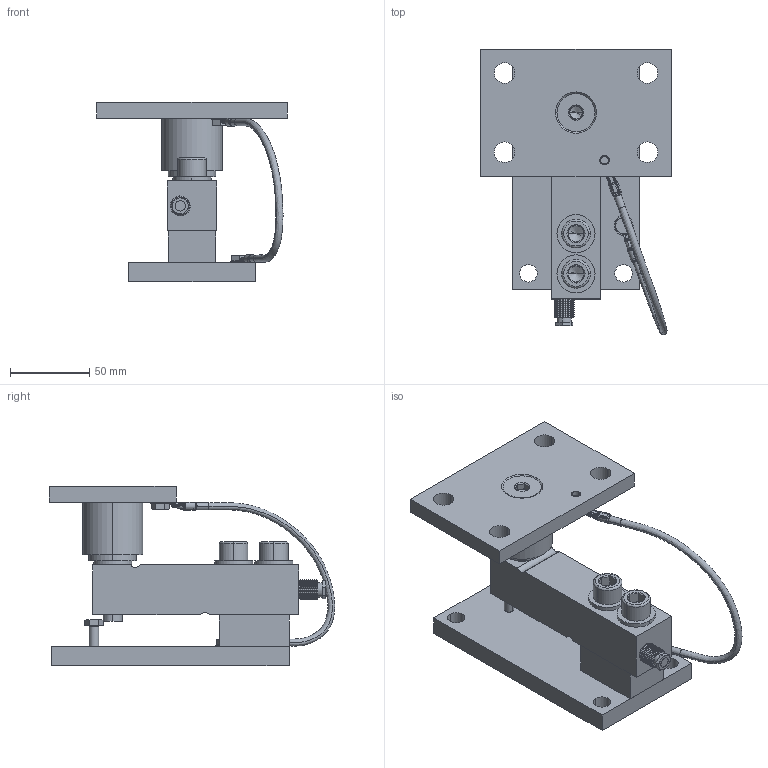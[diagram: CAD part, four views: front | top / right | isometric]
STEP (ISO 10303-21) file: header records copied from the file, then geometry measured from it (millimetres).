
FILE_DESCRIPTION((''),'1');
FILE_NAME('LMLAS_500_kg.step','2020-05-25T10:43:35',(''),(''),'','','');
FILE_SCHEMA(('AUTOMOTIVE_DESIGN { 1 0 10303 214 1 1 1 1 }'));
Products named in the file (22): LMLAS 500_kg; LMLAS part 03; LMLAS part 04; LMLAS part 06; LMLAS cable 01; LMLAS part 07; LMLAS cable 02; LMLAS screw 01; LMLAS screw 02; LMLAS part 08; LMLAS part 09; LMLAS part 10; LMLAS part 12; LMLAS part 13; LMLAS screw 03; LMLAS screw 04; LMLAS load cell 01; LMLAS part 14; LMLAS screw 05; LMLAS part 15
Assembly tree (28 placements, depth 4):
  LMLAS 500_kg
    LMLAS 500_kg
    LMLAS part 07
      LMLAS part 03
        LMLAS part 04
        LMLAS part 06
        LMLAS cable 01
      LMLAS part 03
        LMLAS part 04
        LMLAS part 06
        LMLAS cable 01
      LMLAS cable 02
    LMLAS screw 01
    LMLAS screw 02  x2
    LMLAS part 08
    LMLAS part 13
      LMLAS part 09
        LMLAS part 10
        LMLAS part 12
    LMLAS screw 03  x2
    LMLAS screw 04  x3
    LMLAS load cell 01
    LMLAS part 14
    LMLAS screw 05
    LMLAS part 15
Bounding box: 120 x 179.98 x 113 mm (x, y, z)
Volume: 430126.4 mm3; surface area: 127219.4 mm2
Topology: 23 solids, 30 shells, 697 faces, 1684 edges, 1043 vertices
Faces by surface type: cylinder 214, plane 207, cone 136, bspline 76, torus 60, extrusion 4
Entity records: 21423 total; most frequent: CARTESIAN_POINT 9372, DIRECTION 2521, ORIENTED_EDGE 2276, EDGE_CURVE 1152, AXIS2_PLACEMENT_3D 1037, VERTEX_POINT 716, EDGE_LOOP 556, CIRCLE 554
